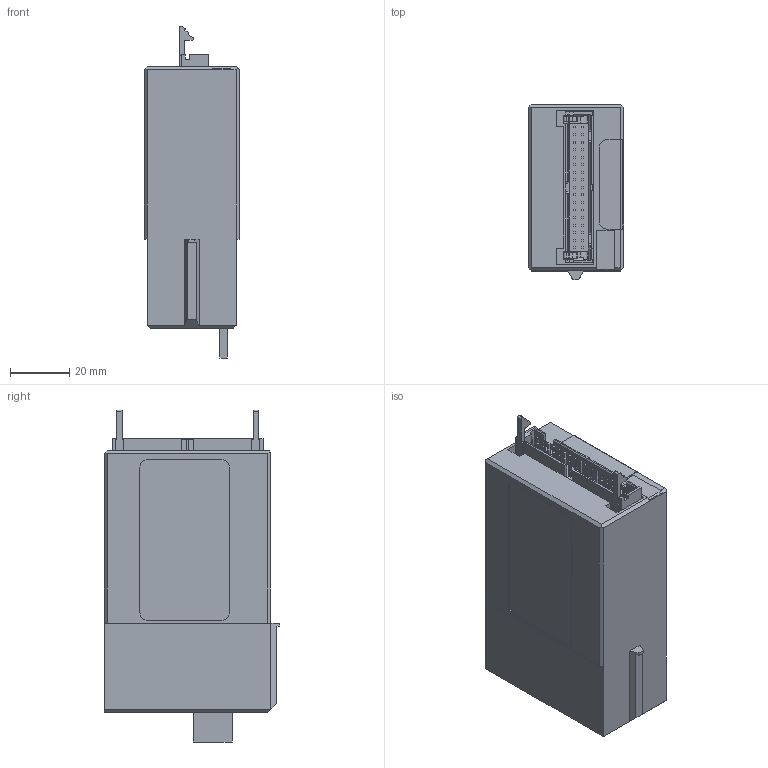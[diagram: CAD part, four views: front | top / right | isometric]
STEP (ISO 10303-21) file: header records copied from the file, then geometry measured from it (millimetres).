
FILE_DESCRIPTION(('FreeCAD Model'),'2;1');
FILE_NAME('C:/work/3D/_______________PCD3.E160_FlatCable/SBC_SETP_PLC_PCD3E160_FlatCable_2021-01-10.step','2021-01-11T15:17:20',('Author'),(''), 'Open CASCADE STEP processor 7.3','FreeCAD','Unknown');
FILE_SCHEMA(('AUTOMOTIVE_DESIGN { 1 0 10303 214 1 1 1 1 }'));
Length unit declared in the file: millimetre
Products named in the file (8): Gehäuse; C-104313-6; Leiterplatte; Bus; Label; Etikette_unten; Etikette_oben; Etikette_in_der_Schräge
Bounding box: 32.2 x 59 x 111.68 mm (x, y, z)
Volume: 50834.2 mm3; surface area: 50807.1 mm2
Topology: 8 solids, 8 shells, 661 faces, 1704 edges, 1130 vertices
Faces by surface type: plane 596, cylinder 65
Entity records: 42269 total; most frequent: CARTESIAN_POINT 7228, DIRECTION 6520, LINE 4836, VECTOR 4836, ORIENTED_EDGE 3408, PCURVE 3408, DEFINITIONAL_REPRESENTATION 3408, EDGE_CURVE 1704
